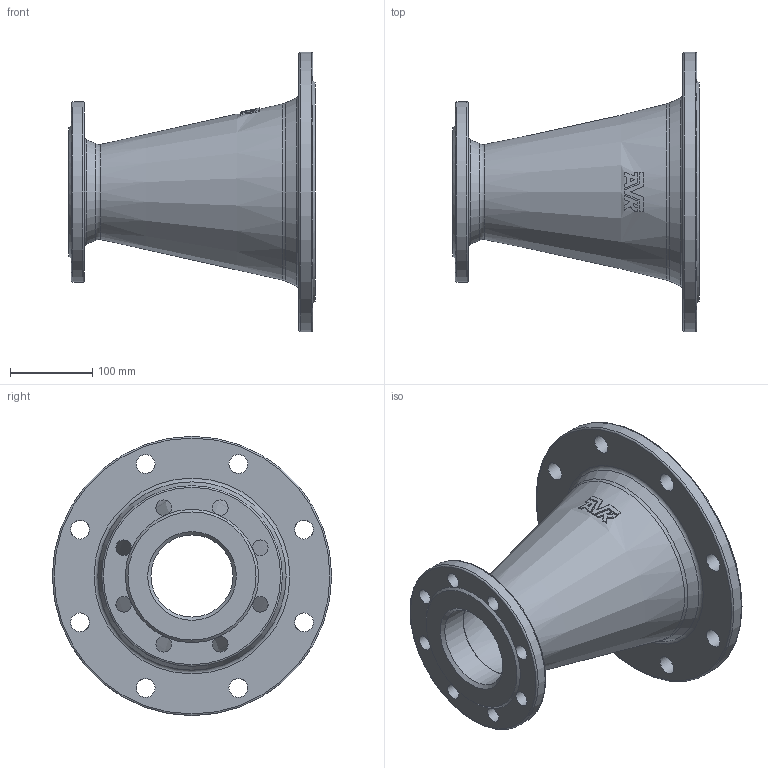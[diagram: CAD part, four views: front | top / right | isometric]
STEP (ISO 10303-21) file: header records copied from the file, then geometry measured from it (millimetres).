
FILE_DESCRIPTION (( 'STEP AP203' ), '1' );
FILE_NAME ('O_712_2210_DN200_DN100_0X_REV01.step', '2024-08-07T12:02:23', ( '' ), ( '' ), 'SwSTEP 2.0', 'SolidWorks 2022', '' );
FILE_SCHEMA (( 'CONFIG_CONTROL_DESIGN' ));
Length unit declared in the file: millimetre
Products named in the file (1): O_712_2210_DN200_DN100_0X_REV01
Bounding box: 300 x 340 x 340 mm (x, y, z)
Volume: 2544825.2 mm3; surface area: 479767.3 mm2
Topology: 1 solids, 1 shells, 93 faces, 262 edges, 163 vertices
Faces by surface type: plane 49, cylinder 22, cone 12, torus 10
Full cylindrical faces by diameter (mm): 19 x8, 23 x8, 100 x1, 200 x1, 220 x1, 340 x1
Entity records: 2834 total; most frequent: CARTESIAN_POINT 617, DIRECTION 469, ORIENTED_EDGE 402, AXIS2_PLACEMENT_3D 216, EDGE_CURVE 201, EDGE_LOOP 157, VERTEX_POINT 140, FACE_OUTER_BOUND 123
